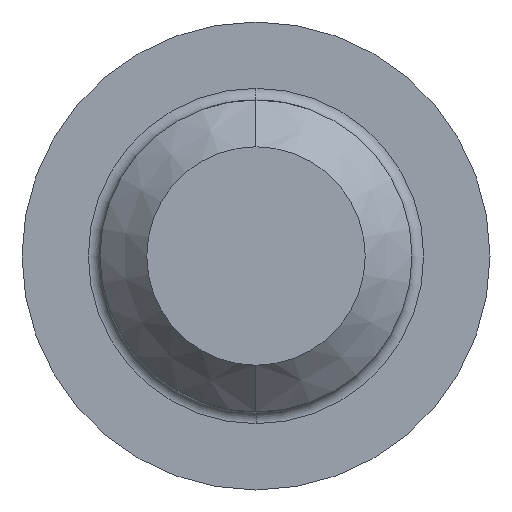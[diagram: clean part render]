
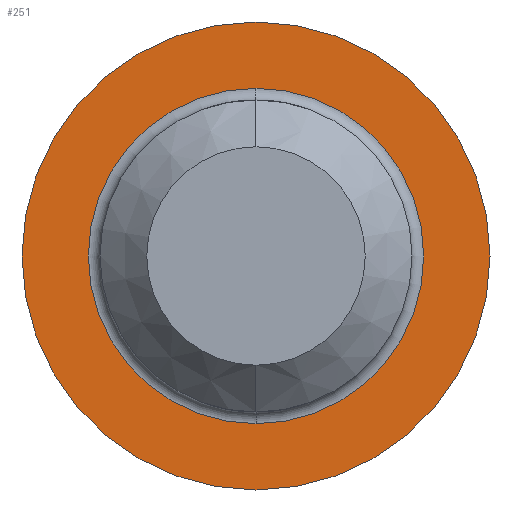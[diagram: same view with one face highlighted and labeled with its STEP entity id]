
A CAD part, left-side view. The second image highlights one B-rep face of the part: STEP entity #251.
In plain terms, the highlighted planar face has unit normal (-1, 0, 0).
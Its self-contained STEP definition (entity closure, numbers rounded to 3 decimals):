
#26 = VERTEX_POINT ( 'NONE', #118 ) ;
#39 = EDGE_CURVE ( 'NONE', #46, #41, #107, .T. ) ;
#41 = VERTEX_POINT ( 'NONE', #291 ) ;
#46 = VERTEX_POINT ( 'NONE', #286 ) ;
#64 = VERTEX_POINT ( 'NONE', #369 ) ;
#65 = EDGE_CURVE ( 'NONE', #26, #64, #422, .T. ) ;
#100 = DIRECTION ( 'NONE',  ( -1., 0., 0. ) ) ;
#107 = CIRCLE ( 'NONE', #289, 6. ) ;
#118 = CARTESIAN_POINT ( 'NONE',  ( 0., 0., 4.3 ) ) ;
#128 = ORIENTED_EDGE ( 'NONE', *, *, #240, .T. ) ;
#143 = EDGE_LOOP ( 'NONE', ( #253, #242 ) ) ;
#240 = EDGE_CURVE ( 'NONE', #41, #46, #400, .T. ) ;
#242 = ORIENTED_EDGE ( 'NONE', *, *, #65, .T. ) ;
#243 = EDGE_CURVE ( 'NONE', #64, #26, #393, .T. ) ;
#247 = EDGE_LOOP ( 'NONE', ( #258, #128 ) ) ;
#251 = ADVANCED_FACE ( 'NONE', ( #380, #376 ), #381, .F. ) ;
#253 = ORIENTED_EDGE ( 'NONE', *, *, #243, .T. ) ;
#258 = ORIENTED_EDGE ( 'NONE', *, *, #39, .T. ) ;
#286 = CARTESIAN_POINT ( 'NONE',  ( 0., 0., 6. ) ) ;
#288 = DIRECTION ( 'NONE',  ( 0., 0., 1. ) ) ;
#289 = AXIS2_PLACEMENT_3D ( 'NONE', #294, #100, #288 ) ;
#291 = CARTESIAN_POINT ( 'NONE',  ( 0., 0., -6. ) ) ;
#294 = CARTESIAN_POINT ( 'NONE',  ( 0., 0., 0. ) ) ;
#344 = DIRECTION ( 'NONE',  ( 0., 0., -1. ) ) ;
#352 = AXIS2_PLACEMENT_3D ( 'NONE', #405, #404, #403 ) ;
#369 = CARTESIAN_POINT ( 'NONE',  ( 0., 0., -4.3 ) ) ;
#375 = AXIS2_PLACEMENT_3D ( 'NONE', #437, #388, #344 ) ;
#376 = FACE_OUTER_BOUND ( 'NONE', #247, .T. ) ;
#380 = FACE_BOUND ( 'NONE', #143, .T. ) ;
#381 = PLANE ( 'NONE',  #375 ) ;
#386 = DIRECTION ( 'NONE',  ( 0., 0., -1. ) ) ;
#387 = DIRECTION ( 'NONE',  ( 1., 0., 0. ) ) ;
#388 = DIRECTION ( 'NONE',  ( 1., 0., 0. ) ) ;
#389 = DIRECTION ( 'NONE',  ( 0., 0., 1. ) ) ;
#390 = DIRECTION ( 'NONE',  ( -1., 0., 0. ) ) ;
#391 = CARTESIAN_POINT ( 'NONE',  ( 0., 0., 0. ) ) ;
#392 = AXIS2_PLACEMENT_3D ( 'NONE', #391, #390, #389 ) ;
#393 = CIRCLE ( 'NONE', #395, 4.3 ) ;
#395 = AXIS2_PLACEMENT_3D ( 'NONE', #398, #387, #386 ) ;
#398 = CARTESIAN_POINT ( 'NONE',  ( 0., 0., 0. ) ) ;
#400 = CIRCLE ( 'NONE', #392, 6. ) ;
#403 = DIRECTION ( 'NONE',  ( 0., 0., -1. ) ) ;
#404 = DIRECTION ( 'NONE',  ( 1., 0., 0. ) ) ;
#405 = CARTESIAN_POINT ( 'NONE',  ( 0., 0., 0. ) ) ;
#422 = CIRCLE ( 'NONE', #352, 4.3 ) ;
#437 = CARTESIAN_POINT ( 'NONE',  ( 0., 6., 0. ) ) ;
